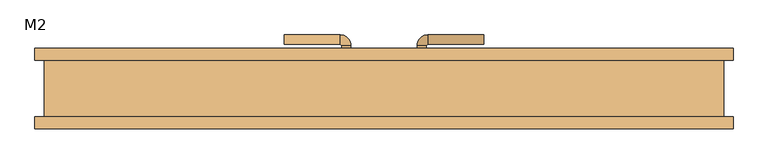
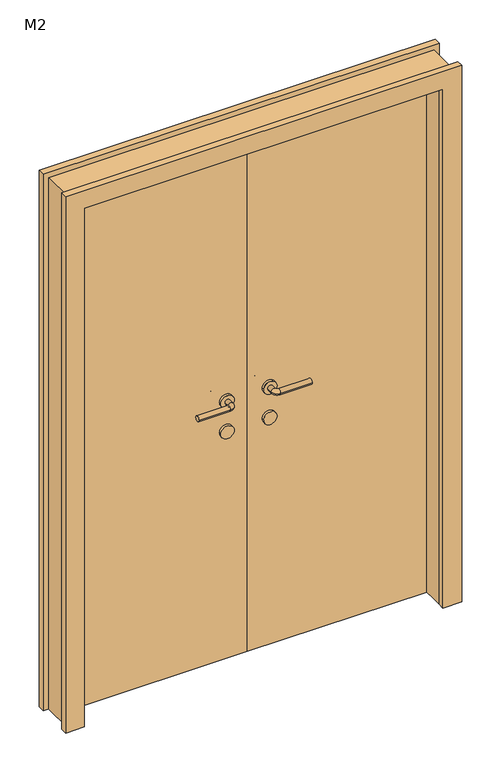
"""IFC4 building model written with IfcOpenShell, lengths in millimetres: door geometry, 双面嵌板木门 1 : M2."""

from ifc_helpers import new_model, si_unit, point, frame, frame_2d, origin, origin_with_axes, place, context, project, spatial, polyline, circle_curve, ellipse_curve, trimmed, segment, composite_curve, outline, extrude, source, transform, mapped, element, save
from ifc_brep_helpers import plane_surface, cylinder_surface, revolved_surface, advanced_brep


def m2_c7316569(model_context):
    return source(origin(), model_context, "Body", "SolidModel", [
        extrude(outline(composite_curve([segment(trimmed(circle_curve(frame_2d((900.0, 80.0)), 25.0), [point((900.0, 105.0))], [point((900.0, 55.0))], False, "CARTESIAN"), True, "CONTINUOUS"), segment(trimmed(circle_curve(frame_2d((900.0, 80.0)), 25.0), [point((900.0, 55.0))], [point((900.0, 105.0))], False, "CARTESIAN"), True, "CONTINUOUS")], self_intersect=False)), frame((0.0, 60.0, 0.0), z_axis=(0.0, 1.0, 0.0), x_axis=(0.0, 0.0, 1.0)), (0.0, 0.0, 1.0), 10.0),
        extrude(outline(composite_curve([segment(trimmed(circle_curve(frame_2d((900.0, 80.0)), 25.0), [point((900.0, 105.0))], [point((900.0, 55.0))], False, "CARTESIAN"), True, "CONTINUOUS"), segment(trimmed(circle_curve(frame_2d((900.0, 80.0)), 25.0), [point((900.0, 55.0))], [point((900.0, 105.0))], False, "CARTESIAN"), True, "CONTINUOUS")], self_intersect=False)), frame((0.0, 10.0, 0.0), z_axis=(0.0, 1.0, 0.0), x_axis=(0.0, 0.0, 1.0)), (0.0, 0.0, 1.0), 10.0),
        advanced_brep(
        [(70.0, 70.0, 1020.0), (90.0, 70.0, 1020.0), (70.0, 90.6133551, 1020.0), (90.0, 90.6133551, 1020.0), (211.580964, 113.580964, 1020.0), (211.580964, 93.580964, 1020.0), (92.9676089, 93.580964, 1020.0), (92.9676089, 113.580964, 1020.0)],
        [
            (0, 1, circle_curve(frame((80.0, 70.0, 1020.0), z_axis=(0.0, -1.0, 0.0), x_axis=(1.0, 0.0, 0.0)), 10.0)),
            (1, 0, circle_curve(frame((80.0, 70.0, 1020.0), z_axis=(0.0, -1.0, 0.0), x_axis=(1.0, 0.0, 0.0)), 10.0)),
            (0, 2),
            (2, 3, circle_curve(frame((80.0, 90.6133551, 1020.0), z_axis=(0.0, -1.0, 0.0), x_axis=(1.0, 0.0, 0.0)), 10.0)),
            (3, 1),
            (3, 2, circle_curve(frame((80.0, 90.6133551, 1020.0), z_axis=(0.0, -1.0, 0.0), x_axis=(1.0, 0.0, 0.0)), 10.0)),
            (4, 5, circle_curve(frame((211.580964, 103.580964, 1020.0), z_axis=(1.0, 0.0, 0.0), x_axis=(0.0, -1.0, 0.0)), 10.0)),
            (5, 4, circle_curve(frame((211.580964, 103.580964, 1020.0), z_axis=(1.0, 0.0, 0.0), x_axis=(0.0, -1.0, 0.0)), 10.0)),
            (6, 7, circle_curve(frame((92.9676089, 103.580964, 1020.0), z_axis=(-1.0, 0.0, 0.0), x_axis=(0.0, -1.0, 0.0)), 10.0)),
            (7, 2, circle_curve(frame((92.9676089, 90.6133551, 1020.0), z_axis=(0.0, 0.0, 1.0), x_axis=(-1.0, 0.0, 0.0)), 22.9676089)),
            (3, 6, circle_curve(frame((92.9676089, 90.6133551, 1020.0), z_axis=(0.0, 0.0, -1.0), x_axis=(-1.0, 0.0, 0.0)), 2.9676089)),
            (7, 6, circle_curve(frame((92.9676089, 103.580964, 1020.0), z_axis=(-1.0, 0.0, 0.0), x_axis=(0.0, -1.0, 0.0)), 10.0)),
            (6, 5),
            (4, 7),
        ],
        [
            plane_surface(frame((80.0, 70.0, 900.0), z_axis=(0.0, -1.0, 0.0), x_axis=(0.0, 0.0, 1.0))),
            cylinder_surface(frame((80.0, 70.0, 1020.0), z_axis=(0.0, -1.0, 0.0), x_axis=(1.0, 0.0, 0.0)), 10.0),
            plane_surface(frame((211.580964, 103.580964, 900.0), z_axis=(1.0, 0.0, 0.0), x_axis=(0.0, 0.0, 1.0))),
            revolved_surface(trimmed(ellipse_curve(frame((80.0, 90.6133551, 1020.0), z_axis=(0.0, 1.0, 0.0), x_axis=(1.0, 0.0, 0.0)), 10.0, 10.0), [point((70.0, 90.6133551, 1020.0))], [point((90.0, 90.6133551, 1020.0))], True, "CARTESIAN"), (92.9676089, 90.6133551, 900.0), (0.0, 0.0, 1.0)),
            revolved_surface(trimmed(ellipse_curve(frame((80.0, 90.6133551, 1020.0), z_axis=(0.0, 1.0, 0.0), x_axis=(1.0, 0.0, 0.0)), 10.0, 10.0), [point((90.0, 90.6133551, 1020.0))], [point((70.0, 90.6133551, 1020.0))], True, "CARTESIAN"), (92.9676089, 90.6133551, 900.0), (0.0, 0.0, 1.0)),
            cylinder_surface(frame((92.9676089, 103.580964, 1020.0), z_axis=(-1.0, 0.0, 0.0), x_axis=(0.0, -1.0, 0.0)), 10.0),
        ],
        [
            (0, [[1, 2]]),
            (1, [[3, 4, 5, -1]]),
            (1, [[-5, 6, -3, -2]]),
            (2, [[7, 8]]),
            (3, [[9, 10, -6, 11]]),
            (4, [[12, -11, -4, -10]]),
            (5, [[13, -7, 14, -9]]),
            (5, [[-14, -8, -13, -12]]),
        ],
    ),
        extrude(outline(composite_curve([segment(trimmed(circle_curve(frame_2d((1020.0, 80.0)), 25.0), [point((1020.0, 105.0))], [point((1020.0, 55.0))], False, "CARTESIAN"), True, "CONTINUOUS"), segment(trimmed(circle_curve(frame_2d((1020.0, 80.0)), 25.0), [point((1020.0, 55.0))], [point((1020.0, 105.0))], False, "CARTESIAN"), True, "CONTINUOUS")], self_intersect=False)), frame((0.0, 60.0, 0.0), z_axis=(0.0, 1.0, 0.0), x_axis=(0.0, 0.0, 1.0)), (0.0, 0.0, 1.0), 10.0),
        advanced_brep(
        [(90.0, 10.0, 1020.0), (70.0, 10.0, 1020.0), (70.0, -10.613355, 1020.0), (90.0, -10.613355, 1020.0), (211.580964, -13.580964, 1020.0), (211.580964, -33.580964, 1020.0), (92.9676089, -33.580964, 1020.0), (92.9676089, -13.580964, 1020.0)],
        [
            (0, 1, circle_curve(frame((80.0, 10.0, 1020.0), z_axis=(0.0, 1.0, 0.0), x_axis=(-1.0, 0.0, 0.0)), 10.0)),
            (1, 0, circle_curve(frame((80.0, 10.0, 1020.0), z_axis=(0.0, 1.0, 0.0), x_axis=(-1.0, 0.0, 0.0)), 10.0)),
            (1, 2),
            (2, 3, circle_curve(frame((80.0, -10.613355, 1020.0), z_axis=(0.0, 1.0, 0.0), x_axis=(-1.0, 0.0, 0.0)), 10.0)),
            (3, 0),
            (3, 2, circle_curve(frame((80.0, -10.613355, 1020.0), z_axis=(0.0, 1.0, 0.0), x_axis=(-1.0, 0.0, 0.0)), 10.0)),
            (4, 5, circle_curve(frame((211.580964, -23.580964, 1020.0), z_axis=(1.0, 0.0, 0.0), x_axis=(0.0, -1.0, 0.0)), 10.0)),
            (5, 4, circle_curve(frame((211.580964, -23.580964, 1020.0), z_axis=(1.0, 0.0, 0.0), x_axis=(0.0, -1.0, 0.0)), 10.0)),
            (6, 7, circle_curve(frame((92.9676089, -23.580964, 1020.0), z_axis=(-1.0, 0.0, 0.0), x_axis=(0.0, -1.0, 0.0)), 10.0)),
            (7, 3, circle_curve(frame((92.9676089, -10.613355, 1020.0), z_axis=(0.0, 0.0, -1.0), x_axis=(-1.0, 0.0, 0.0)), 2.9676089)),
            (2, 6, circle_curve(frame((92.9676089, -10.613355, 1020.0), z_axis=(0.0, 0.0, 1.0), x_axis=(-1.0, 0.0, 0.0)), 22.9676089)),
            (7, 6, circle_curve(frame((92.9676089, -23.580964, 1020.0), z_axis=(-1.0, 0.0, 0.0), x_axis=(0.0, -1.0, 0.0)), 10.0)),
            (6, 5),
            (4, 7),
        ],
        [
            plane_surface(frame((80.0, 10.0, 900.0), z_axis=(0.0, 1.0, 0.0), x_axis=(0.0, 0.0, 1.0))),
            cylinder_surface(frame((80.0, 10.0, 1020.0), z_axis=(0.0, 1.0, 0.0), x_axis=(-1.0, 0.0, 0.0)), 10.0),
            plane_surface(frame((211.580964, -23.580964, 900.0), z_axis=(1.0, 0.0, 0.0), x_axis=(0.0, 0.0, 1.0))),
            revolved_surface(trimmed(ellipse_curve(frame((80.0, -10.613355, 1020.0), z_axis=(0.0, -1.0, 0.0), x_axis=(-1.0, 0.0, 0.0)), 10.0, 10.0), [point((90.0, -10.613355, 1020.0))], [point((70.0, -10.613355, 1020.0))], True, "CARTESIAN"), (92.9676089, -10.613355, 900.0), (0.0, 0.0, -1.0)),
            revolved_surface(trimmed(ellipse_curve(frame((80.0, -10.613355, 1020.0), z_axis=(0.0, -1.0, 0.0), x_axis=(-1.0, 0.0, 0.0)), 10.0, 10.0), [point((70.0, -10.613355, 1020.0))], [point((90.0, -10.613355, 1020.0))], True, "CARTESIAN"), (92.9676089, -10.613355, 900.0), (0.0, 0.0, -1.0)),
            cylinder_surface(frame((92.9676089, -23.580964, 1020.0), z_axis=(-1.0, 0.0, 0.0), x_axis=(0.0, -1.0, 0.0)), 10.0),
        ],
        [
            (0, [[1, 2]]),
            (1, [[3, 4, 5, -2]]),
            (1, [[-5, 6, -3, -1]]),
            (2, [[7, 8]]),
            (3, [[9, 10, -4, 11]]),
            (4, [[12, -11, -6, -10]]),
            (5, [[13, -7, 14, -9]]),
            (5, [[-14, -8, -13, -12]]),
        ],
    ),
        extrude(outline(composite_curve([segment(trimmed(circle_curve(frame_2d((1020.0, 80.0)), 25.0), [point((1020.0, 105.0))], [point((1020.0, 55.0))], False, "CARTESIAN"), True, "CONTINUOUS"), segment(trimmed(circle_curve(frame_2d((1020.0, 80.0)), 25.0), [point((1020.0, 55.0))], [point((1020.0, 105.0))], False, "CARTESIAN"), True, "CONTINUOUS")], self_intersect=False)), frame((0.0, 10.0, 0.0), z_axis=(0.0, 1.0, 0.0), x_axis=(0.0, 0.0, 1.0)), (0.0, 0.0, 1.0), 10.0),
        extrude(outline(composite_curve([segment(trimmed(circle_curve(frame_2d((900.0, -80.0)), 25.0), [point((900.0, -105.0))], [point((900.0, -55.0))], False, "CARTESIAN"), True, "CONTINUOUS"), segment(trimmed(circle_curve(frame_2d((900.0, -80.0)), 25.0), [point((900.0, -55.0))], [point((900.0, -105.0))], False, "CARTESIAN"), True, "CONTINUOUS")], self_intersect=False)), frame((0.0, 60.0, 0.0), z_axis=(0.0, 1.0, 0.0), x_axis=(0.0, 0.0, 1.0)), (0.0, 0.0, 1.0), 10.0),
        extrude(outline(composite_curve([segment(trimmed(circle_curve(frame_2d((900.0, -80.0)), 25.0), [point((900.0, -105.0))], [point((900.0, -55.0))], False, "CARTESIAN"), True, "CONTINUOUS"), segment(trimmed(circle_curve(frame_2d((900.0, -80.0)), 25.0), [point((900.0, -55.0))], [point((900.0, -105.0))], False, "CARTESIAN"), True, "CONTINUOUS")], self_intersect=False)), frame((0.0, 10.0, 0.0), z_axis=(0.0, 1.0, 0.0), x_axis=(0.0, 0.0, 1.0)), (0.0, 0.0, 1.0), 10.0),
        advanced_brep(
        [(-70.0, 70.0, 1020.0), (-90.0, 70.0, 1020.0), (-90.0, 90.6133551, 1020.0), (-70.0, 90.6133551, 1020.0), (-211.580964, 113.580964, 1020.0), (-211.580964, 93.580964, 1020.0), (-92.9676089, 93.580964, 1020.0), (-92.9676089, 113.580964, 1020.0)],
        [
            (0, 1, circle_curve(frame((-80.0, 70.0, 1020.0), z_axis=(0.0, -1.0, 0.0), x_axis=(-1.0, 0.0, 0.0)), 10.0)),
            (1, 0, circle_curve(frame((-80.0, 70.0, 1020.0), z_axis=(0.0, -1.0, 0.0), x_axis=(-1.0, 0.0, 0.0)), 10.0)),
            (1, 2),
            (2, 3, circle_curve(frame((-80.0, 90.6133551, 1020.0), z_axis=(0.0, -1.0, 0.0), x_axis=(-1.0, 0.0, 0.0)), 10.0)),
            (3, 0),
            (3, 2, circle_curve(frame((-80.0, 90.6133551, 1020.0), z_axis=(0.0, -1.0, 0.0), x_axis=(-1.0, 0.0, 0.0)), 10.0)),
            (4, 5, circle_curve(frame((-211.580964, 103.580964, 1020.0), z_axis=(-1.0, 0.0, 0.0), x_axis=(0.0, -1.0, 0.0)), 10.0)),
            (5, 4, circle_curve(frame((-211.580964, 103.580964, 1020.0), z_axis=(-1.0, 0.0, 0.0), x_axis=(0.0, -1.0, 0.0)), 10.0)),
            (6, 2, circle_curve(frame((-92.9676089, 90.6133551, 1020.0), z_axis=(0.0, 0.0, -1.0), x_axis=(1.0, 0.0, 0.0)), 2.9676089)),
            (3, 7, circle_curve(frame((-92.9676089, 90.6133551, 1020.0), z_axis=(0.0, 0.0, 1.0), x_axis=(1.0, 0.0, 0.0)), 22.9676089)),
            (7, 6, circle_curve(frame((-92.9676089, 103.580964, 1020.0), z_axis=(1.0, 0.0, 0.0), x_axis=(0.0, -1.0, 0.0)), 10.0)),
            (6, 7, circle_curve(frame((-92.9676089, 103.580964, 1020.0), z_axis=(1.0, 0.0, 0.0), x_axis=(0.0, -1.0, 0.0)), 10.0)),
            (7, 4),
            (5, 6),
        ],
        [
            plane_surface(frame((-80.0, 70.0, 900.0), z_axis=(0.0, -1.0, 0.0), x_axis=(0.0, 0.0, 1.0))),
            cylinder_surface(frame((-80.0, 70.0, 1020.0), z_axis=(0.0, -1.0, 0.0), x_axis=(-1.0, 0.0, 0.0)), 10.0),
            plane_surface(frame((-211.580964, 103.580964, 900.0), z_axis=(-1.0, 0.0, 0.0), x_axis=(0.0, 0.0, 1.0))),
            revolved_surface(trimmed(ellipse_curve(frame((-80.0, 90.6133551, 1020.0), z_axis=(0.0, -1.0, 0.0), x_axis=(-1.0, 0.0, 0.0)), 10.0, 10.0), [point((-70.0, 90.6133551, 1020.0))], [point((-90.0, 90.6133551, 1020.0))], True, "CARTESIAN"), (-92.9676089, 90.6133551, 900.0), (0.0, 0.0, 1.0)),
            revolved_surface(trimmed(ellipse_curve(frame((-80.0, 90.6133551, 1020.0), z_axis=(0.0, -1.0, 0.0), x_axis=(-1.0, 0.0, 0.0)), 10.0, 10.0), [point((-90.0, 90.6133551, 1020.0))], [point((-70.0, 90.6133551, 1020.0))], True, "CARTESIAN"), (-92.9676089, 90.6133551, 900.0), (0.0, 0.0, 1.0)),
            cylinder_surface(frame((-92.9676089, 103.580964, 1020.0), z_axis=(1.0, 0.0, 0.0), x_axis=(0.0, -1.0, 0.0)), 10.0),
        ],
        [
            (0, [[1, 2]]),
            (1, [[-2, 3, 4, 5]]),
            (1, [[-1, -5, 6, -3]]),
            (2, [[7, 8]]),
            (3, [[9, -6, 10, 11]]),
            (4, [[-10, -4, -9, 12]]),
            (5, [[-11, 13, -8, 14]]),
            (5, [[-12, -14, -7, -13]]),
        ],
    ),
        extrude(outline(composite_curve([segment(trimmed(circle_curve(frame_2d((1020.0, -80.0)), 25.0), [point((1020.0, -105.0))], [point((1020.0, -55.0))], False, "CARTESIAN"), True, "CONTINUOUS"), segment(trimmed(circle_curve(frame_2d((1020.0, -80.0)), 25.0), [point((1020.0, -55.0))], [point((1020.0, -105.0))], False, "CARTESIAN"), True, "CONTINUOUS")], self_intersect=False)), frame((0.0, 60.0, 0.0), z_axis=(0.0, 1.0, 0.0), x_axis=(0.0, 0.0, 1.0)), (0.0, 0.0, 1.0), 10.0),
        advanced_brep(
        [(-90.0, 10.0, 1020.0), (-70.0, 10.0, 1020.0), (-90.0, -10.613355, 1020.0), (-70.0, -10.613355, 1020.0), (-211.580964, -13.580964, 1020.0), (-211.580964, -33.580964, 1020.0), (-92.9676089, -33.580964, 1020.0), (-92.9676089, -13.580964, 1020.0)],
        [
            (0, 1, circle_curve(frame((-80.0, 10.0, 1020.0), z_axis=(0.0, 1.0, 0.0), x_axis=(1.0, 0.0, 0.0)), 10.0)),
            (1, 0, circle_curve(frame((-80.0, 10.0, 1020.0), z_axis=(0.0, 1.0, 0.0), x_axis=(1.0, 0.0, 0.0)), 10.0)),
            (0, 2),
            (2, 3, circle_curve(frame((-80.0, -10.613355, 1020.0), z_axis=(0.0, 1.0, 0.0), x_axis=(1.0, 0.0, 0.0)), 10.0)),
            (3, 1),
            (3, 2, circle_curve(frame((-80.0, -10.613355, 1020.0), z_axis=(0.0, 1.0, 0.0), x_axis=(1.0, 0.0, 0.0)), 10.0)),
            (4, 5, circle_curve(frame((-211.580964, -23.580964, 1020.0), z_axis=(-1.0, 0.0, 0.0), x_axis=(0.0, -1.0, 0.0)), 10.0)),
            (5, 4, circle_curve(frame((-211.580964, -23.580964, 1020.0), z_axis=(-1.0, 0.0, 0.0), x_axis=(0.0, -1.0, 0.0)), 10.0)),
            (6, 3, circle_curve(frame((-92.9676089, -10.613355, 1020.0), z_axis=(0.0, 0.0, 1.0), x_axis=(1.0, 0.0, 0.0)), 22.9676089)),
            (2, 7, circle_curve(frame((-92.9676089, -10.613355, 1020.0), z_axis=(0.0, 0.0, -1.0), x_axis=(1.0, 0.0, 0.0)), 2.9676089)),
            (7, 6, circle_curve(frame((-92.9676089, -23.580964, 1020.0), z_axis=(1.0, 0.0, 0.0), x_axis=(0.0, -1.0, 0.0)), 10.0)),
            (6, 7, circle_curve(frame((-92.9676089, -23.580964, 1020.0), z_axis=(1.0, 0.0, 0.0), x_axis=(0.0, -1.0, 0.0)), 10.0)),
            (7, 4),
            (5, 6),
        ],
        [
            plane_surface(frame((-80.0, 10.0, 900.0), z_axis=(0.0, 1.0, 0.0), x_axis=(0.0, 0.0, 1.0))),
            cylinder_surface(frame((-80.0, 10.0, 1020.0), z_axis=(0.0, 1.0, 0.0), x_axis=(1.0, 0.0, 0.0)), 10.0),
            plane_surface(frame((-211.580964, -23.580964, 900.0), z_axis=(-1.0, 0.0, 0.0), x_axis=(0.0, 0.0, 1.0))),
            revolved_surface(trimmed(ellipse_curve(frame((-80.0, -10.613355, 1020.0), z_axis=(0.0, 1.0, 0.0), x_axis=(1.0, 0.0, 0.0)), 10.0, 10.0), [point((-90.0, -10.613355, 1020.0))], [point((-70.0, -10.613355, 1020.0))], True, "CARTESIAN"), (-92.9676089, -10.613355, 900.0), (0.0, 0.0, -1.0)),
            revolved_surface(trimmed(ellipse_curve(frame((-80.0, -10.613355, 1020.0), z_axis=(0.0, 1.0, 0.0), x_axis=(1.0, 0.0, 0.0)), 10.0, 10.0), [point((-70.0, -10.613355, 1020.0))], [point((-90.0, -10.613355, 1020.0))], True, "CARTESIAN"), (-92.9676089, -10.613355, 900.0), (0.0, 0.0, -1.0)),
            cylinder_surface(frame((-92.9676089, -23.580964, 1020.0), z_axis=(1.0, 0.0, 0.0), x_axis=(0.0, -1.0, 0.0)), 10.0),
        ],
        [
            (0, [[1, 2]]),
            (1, [[-1, 3, 4, 5]]),
            (1, [[-2, -5, 6, -3]]),
            (2, [[7, 8]]),
            (3, [[9, -4, 10, 11]]),
            (4, [[-10, -6, -9, 12]]),
            (5, [[-11, 13, -8, 14]]),
            (5, [[-12, -14, -7, -13]]),
        ],
    ),
        extrude(outline(composite_curve([segment(trimmed(circle_curve(frame_2d((1020.0, -80.0)), 25.0), [point((1020.0, -105.0))], [point((1020.0, -55.0))], False, "CARTESIAN"), True, "CONTINUOUS"), segment(trimmed(circle_curve(frame_2d((1020.0, -80.0)), 25.0), [point((1020.0, -55.0))], [point((1020.0, -105.0))], False, "CARTESIAN"), True, "CONTINUOUS")], self_intersect=False)), frame((0.0, 10.0, 0.0), z_axis=(0.0, 1.0, 0.0), x_axis=(0.0, 0.0, 1.0)), (0.0, 0.0, 1.0), 10.0),
        extrude(outline(polyline([(0.0, 740.0), (2120.0, 740.0), (2120.0, -740.0), (0.0, -740.0), (0.0, -670.0), (2050.0, -670.0), (2050.0, 670.0), (0.0, 670.0), (0.0, 740.0)])), frame((0.0, 60.0, 0.0), z_axis=(0.0, 1.0, 0.0), x_axis=(0.0, 0.0, 1.0)), (0.0, 0.0, 1.0), 25.0),
        extrude(outline(polyline([(2120.0, 740.0), (2120.0, -740.0), (0.0, -740.0), (0.0, -670.0), (2050.0, -670.0), (2050.0, 670.0), (0.0, 670.0), (0.0, 740.0), (2120.0, 740.0)])), frame((0.0, -85.0, 0.0), z_axis=(0.0, 1.0, 0.0), x_axis=(0.0, 0.0, 1.0)), (0.0, 0.0, 1.0), 25.0),
        extrude(outline(polyline([(670.0, 20.0), (0.0, 20.0), (0.0, 60.0), (670.0, 60.0), (670.0, 20.0)])), origin_with_axes(), (0.0, 0.0, 1.0), 2050.0),
        extrude(outline(polyline([(0.0, 20.0), (-670.0, 20.0), (-670.0, 60.0), (0.0, 60.0), (0.0, 20.0)])), origin_with_axes(), (0.0, 0.0, 1.0), 2050.0),
        extrude(outline(polyline([(2100.0, -720.0), (0.0, -720.0), (0.0, -670.0), (2050.0, -670.0), (2050.0, 670.0), (0.0, 670.0), (0.0, 720.0), (2100.0, 720.0), (2100.0, -720.0)])), frame((0.0, -60.0, 0.0), z_axis=(0.0, 1.0, 0.0), x_axis=(0.0, 0.0, 1.0)), (0.0, 0.0, 1.0), 120.0),
    ])


if __name__ == "__main__":
    model = new_model("IFC4")
    model_context = context("Model", 3, world=origin())
    ifc_project = project(units=[si_unit("LENGTHUNIT", "METRE", prefix="MILLI")], contexts=[model_context])
    site = spatial("IfcSite", under=ifc_project)
    building = spatial("IfcBuilding", under=site)
    placement = place(None, origin())
    m2_shape = m2_c7316569(model_context)
    element("IfcDoor", 1, ObjectType="双面嵌板木门 1 : M2", at=placement, inside=building, context=model_context, shape_type="MappedRepresentation", body=[
        mapped(m2_shape, transform((0.0, 0.0, 0.0), x_axis=(1.0, 0.0, 0.0), y_axis=(0.0, 1.0, 0.0), z_axis=(0.0, 0.0, 1.0))),
    ])
    save(model, "model.ifc")
